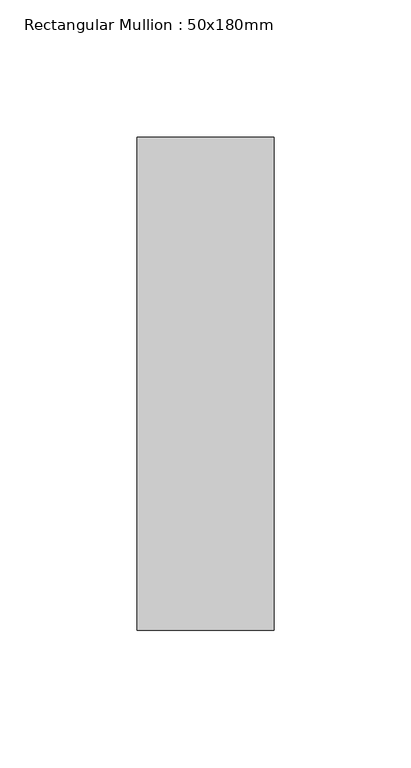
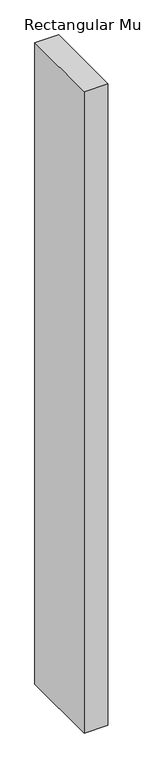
"""IFC4 building model written with IfcOpenShell, lengths in millimetres: member geometry, Rectangular Mullion : 50x180mm."""

from ifc_helpers import new_model, si_unit, frame, origin, place, context, project, spatial, polyline, outline, extrude, source, transform, mapped, element, save


def rectangular_mullion_50x180mm_418feb2d(model_context):
    return source(origin(), model_context, "Body", "SweptSolid", [
        extrude(outline(polyline([(25.0, 90.0), (25.0, -90.0), (-25.0, -90.0), (-25.0, 90.0), (25.0, 90.0)])), frame((0.0, 0.0, -1432.8124999), z_axis=(0.0, 0.0, 1.0), x_axis=(1.0, 0.0, 0.0)), (0.0, 0.0, 1.0), 1432.8124999),
    ])


if __name__ == "__main__":
    model = new_model("IFC4")
    model_context = context("Model", 3, world=origin())
    ifc_project = project(units=[si_unit("LENGTHUNIT", "METRE", prefix="MILLI")], contexts=[model_context])
    site = spatial("IfcSite", under=ifc_project)
    building = spatial("IfcBuilding", under=site)
    placement = place(None, origin())
    rectangular_mullion_50x180mm_shape = rectangular_mullion_50x180mm_418feb2d(model_context)
    element("IfcMember", 1, ObjectType="Rectangular Mullion : 50x180mm", at=placement, inside=building, context=model_context, shape_type="MappedRepresentation", body=[
        mapped(rectangular_mullion_50x180mm_shape, transform((0.0, 0.0, 0.0), x_axis=(1.0, 0.0, 0.0), y_axis=(0.0, 1.0, 0.0), z_axis=(0.0, 0.0, 1.0))),
    ])
    save(model, "model.ifc")
